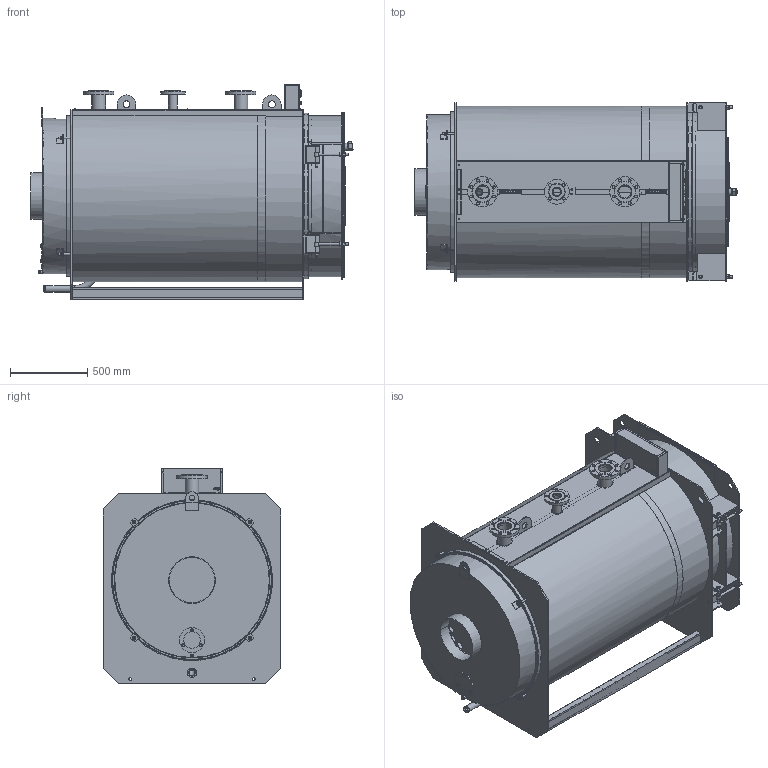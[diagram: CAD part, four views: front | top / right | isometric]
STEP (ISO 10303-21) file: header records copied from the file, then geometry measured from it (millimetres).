
FILE_DESCRIPTION(('STEP AP242'), '1');
FILE_NAME('TITAN Prom 4 (450-500 êÂò)', '', ('UNSPECIFIED'), ('UNSPECIFIED'), 'ASCON STEP Converter 1.6', 'ASCON Math Kernel', '');
FILE_SCHEMA(('AP242_MANAGED_MODEL_BASED_3D_ENGINEERING_MIM_LF { 1 0 10303 442 1 1 4 }'));
Length unit declared in the file: millimetre
Bounding box: 2083.29 x 1150 x 1393.16 mm (x, y, z)
Volume: 188618038.2 mm3; surface area: 29015285.2 mm2
Topology: 35 solids, 35 shells, 3367 faces, 8484 edges, 5410 vertices
Faces by surface type: plane 2034, cylinder 972, cone 232, bspline 78, torus 32, sphere 10, extrusion 9
Full cylindrical faces by diameter (mm): 2 x4, 2.8 x27, 3 x1, 3.2 x4, 3.5 x8, 3.6 x4, 4 x12, 4.1 x2, 4.5 x12, 4.8 x1, 5 x17, 6 x5, 7 x2, 7.6 x1, 8 x3, 9 x2, 9.25 x8, 9.5 x10, 9.728 x1, 10 x6, 10.106 x5, 10.5 x1, 11 x1, 12 x16, 13 x9, 13.5 x4, 14 x4, 14.5 x1, 15 x3, 15.7 x1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
Entity records: 198682 total; most frequent: CARTESIAN_POINT 93494, ORIENTED_EDGE 15640, DIRECTION 15281, EDGE_CURVE 7820, AXIS2_PLACEMENT_3D 5435, VERTEX_POINT 5400, EDGE_LOOP 4712, VECTOR 4411
